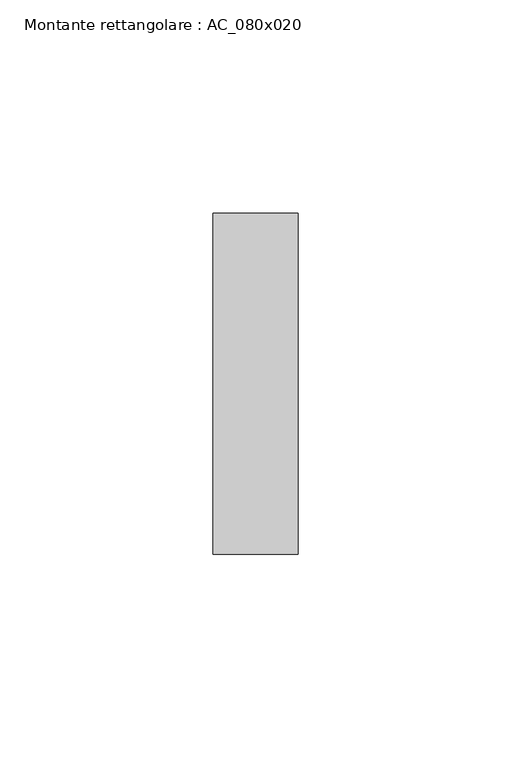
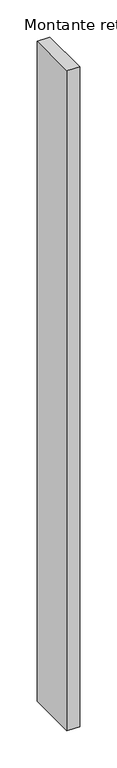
"""IFC4 building model written with IfcOpenShell, lengths in millimetres: member geometry, Montante rettangolare : AC_080x020."""

from ifc_helpers import new_model, si_unit, frame, origin, place, context, project, spatial, polyline, outline, extrude, source, transform, mapped, element, save


def montante_rettangolare_ac_080x020_a9d1659b(model_context):
    return source(origin(), model_context, "Body", "SweptSolid", [
        extrude(outline(polyline([(0.0, 40.0), (0.0, -40.0), (-20.0, -40.0), (-20.0, 40.0), (0.0, 40.0)])), frame((0.0, 0.0, -1085.0), z_axis=(0.0, 0.0, 1.0), x_axis=(1.0, 0.0, 0.0)), (0.0, 0.0, 1.0), 1085.0),
    ])


if __name__ == "__main__":
    model = new_model("IFC4")
    model_context = context("Model", 3, world=origin())
    ifc_project = project(units=[si_unit("LENGTHUNIT", "METRE", prefix="MILLI")], contexts=[model_context])
    site = spatial("IfcSite", under=ifc_project)
    building = spatial("IfcBuilding", under=site)
    placement = place(None, origin())
    montante_rettangolare_ac_080x020_shape = montante_rettangolare_ac_080x020_a9d1659b(model_context)
    element("IfcMember", 1, ObjectType="Montante rettangolare : AC_080x020", at=placement, inside=building, context=model_context, shape_type="MappedRepresentation", body=[
        mapped(montante_rettangolare_ac_080x020_shape, transform((0.0, 0.0, 0.0), x_axis=(1.0, 0.0, 0.0), y_axis=(0.0, 1.0, 0.0), z_axis=(0.0, 0.0, 1.0))),
    ])
    save(model, "model.ifc")
